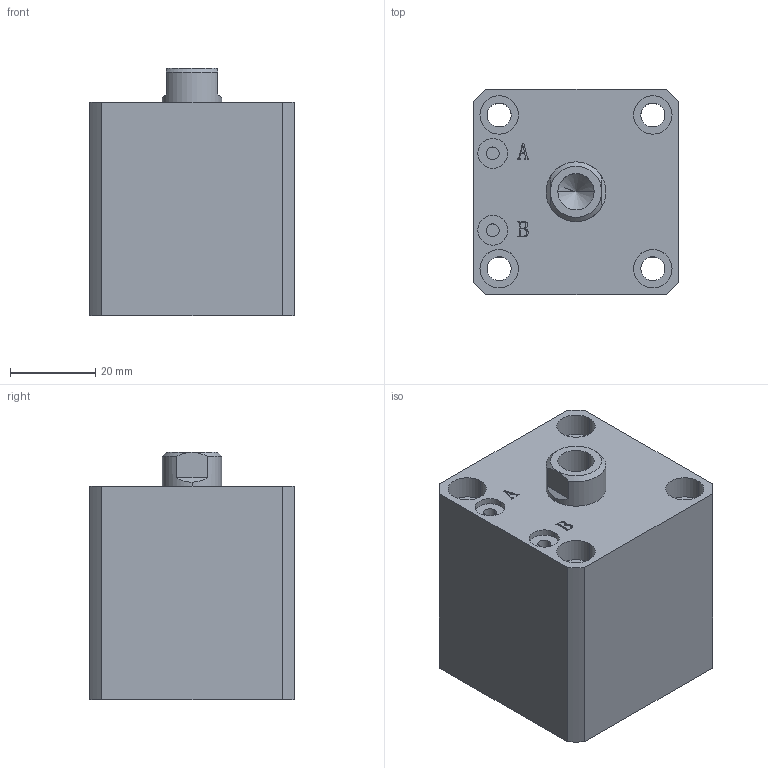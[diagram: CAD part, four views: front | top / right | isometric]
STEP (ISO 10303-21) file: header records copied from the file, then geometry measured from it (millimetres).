
FILE_DESCRIPTION (( 'STEP AP203' ), '1' );
FILE_NAME ('HTB-SDMA25-5N.STEP', '2019-10-07T10:50:00', ( '微软用户' ), ( '微软中国' ), 'SwSTEP 2.0', 'SolidWorks 2012', '' );
FILE_SCHEMA (( 'CONFIG_CONTROL_DESIGN' ));
Length unit declared in the file: millimetre
Products named in the file (3): HTB-SDMA25-5N; HTB-SDMA25-5N活塞杆; HTB-SDMA25-5掛极
Assembly tree (2 placements, depth 2):
  HTB-SDMA25-5N
    HTB-SDMA25-5掛极
    HTB-SDMA25-5N活塞杆
Bounding box: 48 x 48 x 58 mm (x, y, z)
Volume: 105923.9 mm3; surface area: 25286 mm2
Topology: 2 solids, 2 shells, 137 faces, 329 edges, 215 vertices
Faces by surface type: plane 65, cylinder 46, bspline 16, torus 6, cone 4
Entity records: 5072 total; most frequent: CARTESIAN_POINT 1592, ORIENTED_EDGE 654, DIRECTION 645, EDGE_CURVE 327, AXIS2_PLACEMENT_3D 232, VERTEX_POINT 215, VECTOR 181, LINE 181
